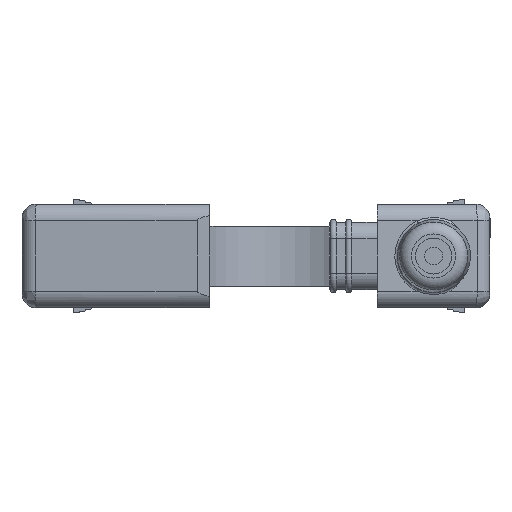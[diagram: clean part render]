
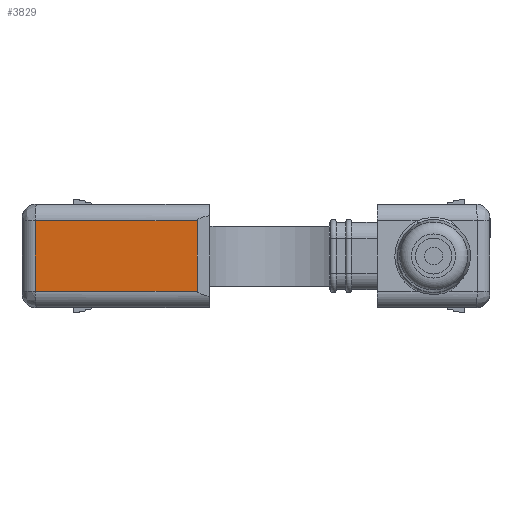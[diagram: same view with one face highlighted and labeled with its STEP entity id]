
A CAD part, left-side view. The second image highlights one B-rep face of the part: STEP entity #3829.
In plain terms, the highlighted planar face has unit normal (-0.998, 0.068, 0) as drawn and (-0.998, 0, 0.068) by its records, which use the part's own axes.
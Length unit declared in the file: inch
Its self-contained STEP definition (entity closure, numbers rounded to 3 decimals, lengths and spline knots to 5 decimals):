
#256=PLANE('',#4286);
#506=LINE('',#7517,#799);
#511=LINE('',#7527,#804);
#512=LINE('',#7533,#805);
#513=LINE('',#7534,#806);
#799=VECTOR('',#5313,0.3937);
#804=VECTOR('',#5322,0.3937);
#805=VECTOR('',#5329,0.3937);
#806=VECTOR('',#5330,0.3937);
#1147=FACE_OUTER_BOUND('',#1390,.T.);
#1390=EDGE_LOOP('',(#3419,#3420,#3421,#3422));
#1869=VERTEX_POINT('',#7400);
#1884=VERTEX_POINT('',#7512);
#1887=VERTEX_POINT('',#7526);
#1889=VERTEX_POINT('',#7532);
#2409=EDGE_CURVE('',#1869,#1884,#506,.T.);
#2414=EDGE_CURVE('',#1884,#1887,#511,.T.);
#2417=EDGE_CURVE('',#1889,#1869,#512,.T.);
#2418=EDGE_CURVE('',#1889,#1887,#513,.T.);
#3419=ORIENTED_EDGE('',*,*,#2409,.F.);
#3420=ORIENTED_EDGE('',*,*,#2417,.F.);
#3421=ORIENTED_EDGE('',*,*,#2418,.T.);
#3422=ORIENTED_EDGE('',*,*,#2414,.F.);
#3829=ADVANCED_FACE('',(#1147),#256,.T.);
#4286=AXIS2_PLACEMENT_3D('',#7531,#5327,#5328);
#5313=DIRECTION('',(0.,-1.,0.));
#5322=DIRECTION('',(-0.068,0.,-0.998));
#5327=DIRECTION('center_axis',(-0.998,0.,0.068));
#5328=DIRECTION('ref_axis',(0.068,0.,0.998));
#5329=DIRECTION('',(0.068,0.,0.998));
#5330=DIRECTION('',(0.,-1.,0.));
#7400=CARTESIAN_POINT('',(0.04617,0.363,1.8941));
#7512=CARTESIAN_POINT('',(0.04617,0.07,1.8941));
#7517=CARTESIAN_POINT('',(0.04617,0.27063,1.8941));
#7526=CARTESIAN_POINT('',(0.,0.07,1.22));
#7527=CARTESIAN_POINT('',(0.0108,0.07,1.37762));
#7531=CARTESIAN_POINT('Origin',(0.025,0.32475,1.585));
#7532=CARTESIAN_POINT('',(0.,0.363,1.22));
#7533=CARTESIAN_POINT('',(0.01313,0.363,1.4117));
#7534=CARTESIAN_POINT('',(0.,0.32475,1.22));
